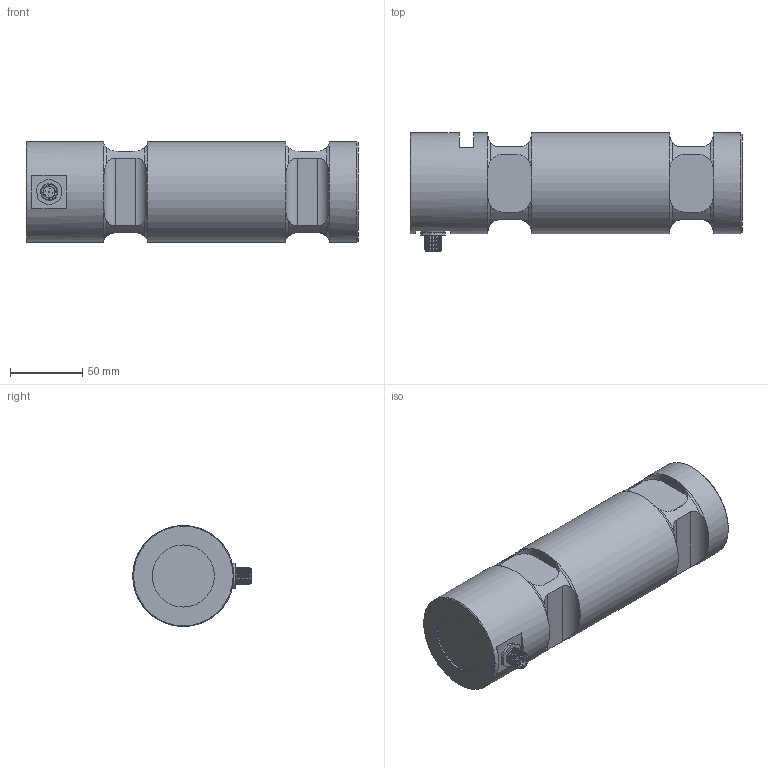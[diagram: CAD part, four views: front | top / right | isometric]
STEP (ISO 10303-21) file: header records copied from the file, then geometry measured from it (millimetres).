
FILE_DESCRIPTION(/* description */ ('Alibre Inc.'),/* implementation_level */ '2;1');
FILE_NAME(/* name */ 'export-42CC9DEA-07BD-4532-B72D-D6952C7AA4C8',/* time_stamp */ '2020-07-14T14:58:10+02:00',/* author */ (''),/* organization */ (''),/* preprocessor_version */ 'ST-DEVELOPER v17',/* originating_system */ 'Alibre',/* authorisation */ '');
FILE_SCHEMA (('CONFIG_CONTROL_DESIGN'));
Length unit declared in the file: centimetre
Bounding box: 230 x 82 x 70 mm (x, y, z)
Volume: 942055.3 mm3; surface area: 216405.2 mm2
Topology: 7 solids, 8 shells, 256 faces, 567 edges, 335 vertices
Faces by surface type: cylinder 88, plane 79, cone 71, torus 18
Full cylindrical faces by diameter (mm): 0.5 x10, 8 x2, 10 x1, 11 x1, 11.5 x1, 12 x21, 13 x2, 14.5 x1, 43 x1, 70 x3
Entity records: 6504 total; most frequent: CARTESIAN_POINT 1765, ORIENTED_EDGE 926, DIRECTION 738, EDGE_CURVE 457, EDGE_LOOP 371, FACE_BOUND 371, AXIS2_PLACEMENT_3D 341, VERTEX_POINT 320
